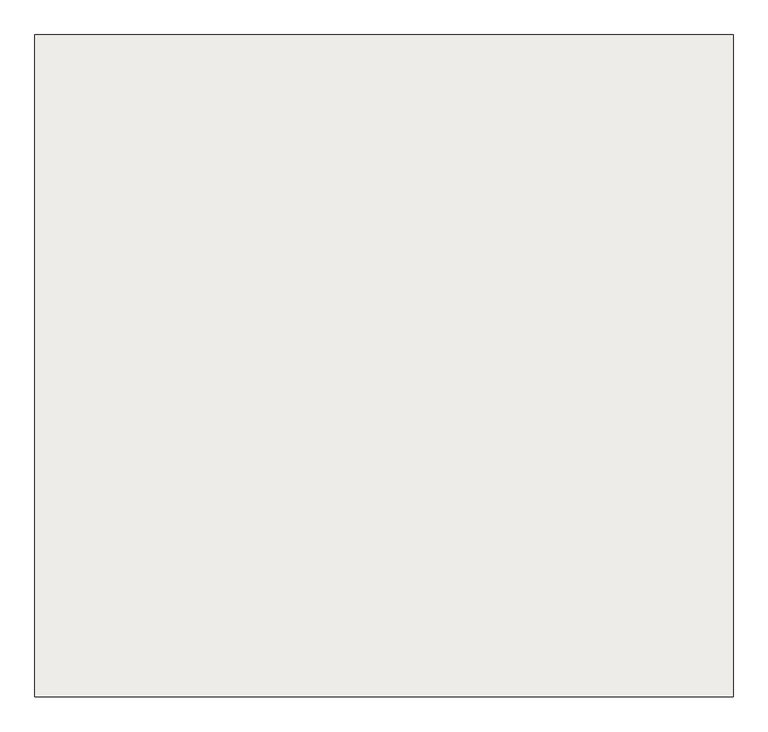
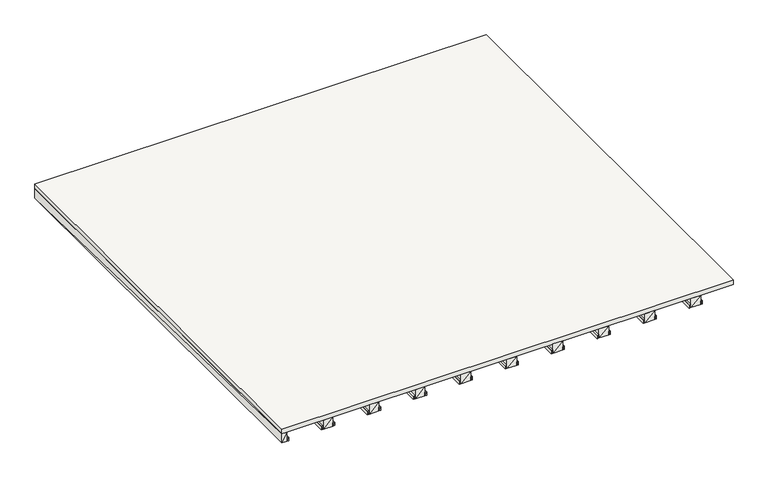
"""IFC4 building model written with IfcOpenShell, lengths in millimetres: slab geometry."""

from ifc_helpers import new_model, si_unit, frame, origin, place, context, project, spatial, polyline, outline, extrude, faceted_brep, source, transform, mapped, element, save


def slab_92ac87c9(model_context):
    return source(origin(), model_context, "Body", "SolidModel", [
        faceted_brep([(1595.8, -1767.4, -120.0), (1595.8, 1767.4, -120.0), (1610.8, 1767.4, -120.0), (1610.8, -1767.4, -120.0), (1610.8, -1767.4, -90.0), (1610.8, 1767.4, -90.0), (1595.8, 1767.4, -90.0), (1595.8, -1767.4, -90.0)], [[[0, 1, 2, 3]], [[4, 5, 6, 7]], [[4, 3, 5]], [[3, 2, 5]], [[5, 2, 6]], [[2, 1, 6]], [[6, 1, 7]], [[1, 0, 7]], [[7, 0, 4]], [[0, 3, 4]]]),
        faceted_brep([(-1144.2, -1767.4, -120.0), (-1144.2, 1767.4, -120.0), (-1064.2, 1767.4, -120.0), (-1064.2, -1767.4, -120.0), (-1064.2, -1767.4, -40.0), (-1064.2, 1767.4, -40.0), (-1144.2, 1767.4, -40.0), (-1144.2, -1767.4, -40.0)], [[[0, 1, 2, 3]], [[4, 5, 6, 7]], [[4, 3, 5]], [[3, 2, 5]], [[5, 2, 6]], [[2, 1, 6]], [[6, 1, 7]], [[1, 0, 7]], [[7, 0, 4]], [[0, 3, 4]]]),
        faceted_brep([(1135.8, -1767.4, -120.0), (1135.8, 1767.4, -120.0), (1215.8, 1767.4, -120.0), (1215.8, -1767.4, -120.0), (1215.8, -1767.4, -40.0), (1215.8, 1767.4, -40.0), (1135.8, 1767.4, -40.0), (1135.8, -1767.4, -40.0)], [[[0, 1, 2, 3]], [[4, 5, 6, 7]], [[4, 3, 5]], [[3, 2, 5]], [[5, 2, 6]], [[2, 1, 6]], [[6, 1, 7]], [[1, 0, 7]], [[7, 0, 4]], [[0, 3, 4]]]),
        faceted_brep([(360.8, -1767.4, -120.0), (360.8, 1767.4, -120.0), (375.8, 1767.4, -120.0), (375.8, -1767.4, -120.0), (375.8, -1767.4, -90.0), (375.8, 1767.4, -90.0), (360.8, 1767.4, -90.0), (360.8, -1767.4, -90.0)], [[[0, 1, 2, 3]], [[4, 5, 6, 7]], [[4, 3, 5]], [[3, 2, 5]], [[5, 2, 6]], [[2, 1, 6]], [[6, 1, 7]], [[1, 0, 7]], [[7, 0, 4]], [[0, 3, 4]]]),
        faceted_brep([(375.8, -1767.4, -120.0), (375.8, 1767.4, -120.0), (455.8, 1767.4, -120.0), (455.8, -1767.4, -120.0), (455.8, -1767.4, -40.0), (455.8, 1767.4, -40.0), (375.8, 1767.4, -40.0), (375.8, -1767.4, -40.0)], [[[0, 1, 2, 3]], [[4, 5, 6, 7]], [[4, 3, 5]], [[3, 2, 5]], [[5, 2, 6]], [[2, 1, 6]], [[6, 1, 7]], [[1, 0, 7]], [[7, 0, 4]], [[0, 3, 4]]]),
        faceted_brep([(-779.2, -1767.4, -120.0), (-779.2, 1767.4, -120.0), (-764.2, 1767.4, -120.0), (-764.2, -1767.4, -120.0), (-764.2, -1767.4, -90.0), (-764.2, 1767.4, -90.0), (-779.2, 1767.4, -90.0), (-779.2, -1767.4, -90.0)], [[[0, 1, 2, 3]], [[4, 5, 6, 7]], [[4, 3, 5]], [[3, 2, 5]], [[5, 2, 6]], [[2, 1, 6]], [[6, 1, 7]], [[1, 0, 7]], [[7, 0, 4]], [[0, 3, 4]]]),
        faceted_brep([(-1864.195, -1767.4, -120.0), (-1864.195, 1767.4, -120.0), (-1824.2, 1767.4, -120.0), (-1824.2, -1767.4, -120.0), (-1824.2, -1767.4, -40.0), (-1824.2, 1767.4, -40.0), (-1864.195, 1767.4, -40.0), (-1864.195, -1767.4, -40.0)], [[[0, 1, 2, 3]], [[4, 5, 6, 7]], [[4, 3, 5]], [[3, 2, 5]], [[5, 2, 6]], [[2, 1, 6]], [[6, 1, 7]], [[1, 0, 7]], [[7, 0, 4]], [[0, 3, 4]]]),
        faceted_brep([(835.8, -1767.4, -120.0), (835.8, 1767.4, -120.0), (850.8, 1767.4, -120.0), (850.8, -1767.4, -120.0), (850.8, -1767.4, -90.0), (850.8, 1767.4, -90.0), (835.8, 1767.4, -90.0), (835.8, -1767.4, -90.0)], [[[0, 1, 2, 3]], [[4, 5, 6, 7]], [[4, 3, 5]], [[3, 2, 5]], [[5, 2, 6]], [[2, 1, 6]], [[6, 1, 7]], [[1, 0, 7]], [[7, 0, 4]], [[0, 3, 4]]]),
        faceted_brep([(-684.2, -1767.4, -120.0), (-684.2, 1767.4, -120.0), (-669.2, 1767.4, -120.0), (-669.2, -1767.4, -120.0), (-669.2, -1767.4, -90.0), (-669.2, 1767.4, -90.0), (-684.2, 1767.4, -90.0), (-684.2, -1767.4, -90.0)], [[[0, 1, 2, 3]], [[4, 5, 6, 7]], [[4, 3, 5]], [[3, 2, 5]], [[5, 2, 6]], [[2, 1, 6]], [[6, 1, 7]], [[1, 0, 7]], [[7, 0, 4]], [[0, 3, 4]]]),
        faceted_brep([(-1444.2, -1767.4, -120.0), (-1444.2, 1767.4, -120.0), (-1429.2, 1767.4, -120.0), (-1429.2, -1767.4, -120.0), (-1429.2, -1767.4, -90.0), (-1429.2, 1767.4, -90.0), (-1444.2, 1767.4, -90.0), (-1444.2, -1767.4, -90.0)], [[[0, 1, 2, 3]], [[4, 5, 6, 7]], [[4, 3, 5]], [[3, 2, 5]], [[5, 2, 6]], [[2, 1, 6]], [[6, 1, 7]], [[1, 0, 7]], [[7, 0, 4]], [[0, 3, 4]]]),
        faceted_brep([(-1824.2, -1767.4, -120.0), (-1824.2, 1767.4, -120.0), (-1809.2, 1767.4, -120.0), (-1809.2, -1767.4, -120.0), (-1809.2, -1767.4, -90.0), (-1809.2, 1767.4, -90.0), (-1824.2, 1767.4, -90.0), (-1824.2, -1767.4, -90.0)], [[[0, 1, 2, 3]], [[4, 5, 6, 7]], [[4, 3, 5]], [[3, 2, 5]], [[5, 2, 6]], [[2, 1, 6]], [[6, 1, 7]], [[1, 0, 7]], [[7, 0, 4]], [[0, 3, 4]]]),
        extrude(outline(polyline([(-1864.2, 1767.4), (1864.2, 1767.4), (1864.2, -1767.4), (-1864.19, -1767.4), (-1864.2, 1767.4)])), frame((0.0, 0.0, -40.0), z_axis=(0.0, 0.0, 1.0), x_axis=(1.0, 0.0, 0.0)), (0.0, 0.0, 1.0), 40.0),
        faceted_brep([(-1539.2, -1767.4, -120.0), (-1539.2, 1767.4, -120.0), (-1524.2, 1767.4, -120.0), (-1524.2, -1767.4, -120.0), (-1524.2, -1767.4, -90.0), (-1524.2, 1767.4, -90.0), (-1539.2, 1767.4, -90.0), (-1539.2, -1767.4, -90.0)], [[[0, 1, 2, 3]], [[4, 5, 6, 7]], [[4, 3, 5]], [[3, 2, 5]], [[5, 2, 6]], [[2, 1, 6]], [[6, 1, 7]], [[1, 0, 7]], [[7, 0, 4]], [[0, 3, 4]]]),
        faceted_brep([(740.8, -1767.4, -120.0), (740.8, 1767.4, -120.0), (755.8, 1767.4, -120.0), (755.8, -1767.4, -120.0), (755.8, -1767.4, -90.0), (755.8, 1767.4, -90.0), (740.8, 1767.4, -90.0), (740.8, -1767.4, -90.0)], [[[0, 1, 2, 3]], [[4, 5, 6, 7]], [[4, 3, 5]], [[3, 2, 5]], [[5, 2, 6]], [[2, 1, 6]], [[6, 1, 7]], [[1, 0, 7]], [[7, 0, 4]], [[0, 3, 4]]]),
        faceted_brep([(-304.2, -1767.4, -120.0), (-304.2, 1767.4, -120.0), (-289.2, 1767.4, -120.0), (-289.2, -1767.4, -120.0), (-289.2, -1767.4, -90.0), (-289.2, 1767.4, -90.0), (-304.2, 1767.4, -90.0), (-304.2, -1767.4, -90.0)], [[[0, 1, 2, 3]], [[4, 5, 6, 7]], [[4, 3, 5]], [[3, 2, 5]], [[5, 2, 6]], [[2, 1, 6]], [[6, 1, 7]], [[1, 0, 7]], [[7, 0, 4]], [[0, 3, 4]]]),
        faceted_brep([(1215.8, -1767.4, -120.0), (1215.8, 1767.4, -120.0), (1230.8, 1767.4, -120.0), (1230.8, -1767.4, -120.0), (1230.8, -1767.4, -90.0), (1230.8, 1767.4, -90.0), (1215.8, 1767.4, -90.0), (1215.8, -1767.4, -90.0)], [[[0, 1, 2, 3]], [[4, 5, 6, 7]], [[4, 3, 5]], [[3, 2, 5]], [[5, 2, 6]], [[2, 1, 6]], [[6, 1, 7]], [[1, 0, 7]], [[7, 0, 4]], [[0, 3, 4]]]),
        faceted_brep([(755.8, -1767.4, -120.0), (755.8, 1767.4, -120.0), (835.8, 1767.4, -120.0), (835.8, -1767.4, -120.0), (835.8, -1767.4, -40.0), (835.8, 1767.4, -40.0), (755.8, 1767.4, -40.0), (755.8, -1767.4, -40.0)], [[[0, 1, 2, 3]], [[4, 5, 6, 7]], [[4, 3, 5]], [[3, 2, 5]], [[5, 2, 6]], [[2, 1, 6]], [[6, 1, 7]], [[1, 0, 7]], [[7, 0, 4]], [[0, 3, 4]]]),
        faceted_brep([(-764.2, -1767.4, -120.0), (-764.2, 1767.4, -120.0), (-684.2, 1767.4, -120.0), (-684.2, -1767.4, -120.0), (-684.2, -1767.4, -40.0), (-684.2, 1767.4, -40.0), (-764.2, 1767.4, -40.0), (-764.2, -1767.4, -40.0)], [[[0, 1, 2, 3]], [[4, 5, 6, 7]], [[4, 3, 5]], [[3, 2, 5]], [[5, 2, 6]], [[2, 1, 6]], [[6, 1, 7]], [[1, 0, 7]], [[7, 0, 4]], [[0, 3, 4]]]),
        faceted_brep([(-1064.2, -1767.4, -120.0), (-1064.2, 1767.4, -120.0), (-1049.2, 1767.4, -120.0), (-1049.2, -1767.4, -120.0), (-1049.2, -1767.4, -90.0), (-1049.2, 1767.4, -90.0), (-1064.2, 1767.4, -90.0), (-1064.2, -1767.4, -90.0)], [[[0, 1, 2, 3]], [[4, 5, 6, 7]], [[4, 3, 5]], [[3, 2, 5]], [[5, 2, 6]], [[2, 1, 6]], [[6, 1, 7]], [[1, 0, 7]], [[7, 0, 4]], [[0, 3, 4]]]),
        faceted_brep([(1120.8, -1767.4, -120.0), (1120.8, 1767.4, -120.0), (1135.8, 1767.4, -120.0), (1135.8, -1767.4, -120.0), (1135.8, -1767.4, -90.0), (1135.8, 1767.4, -90.0), (1120.8, 1767.4, -90.0), (1120.8, -1767.4, -90.0)], [[[0, 1, 2, 3]], [[4, 5, 6, 7]], [[4, 3, 5]], [[3, 2, 5]], [[5, 2, 6]], [[2, 1, 6]], [[6, 1, 7]], [[1, 0, 7]], [[7, 0, 4]], [[0, 3, 4]]]),
        faceted_brep([(1515.8, -1767.4, -120.0), (1515.8, 1767.4, -120.0), (1595.8, 1767.4, -120.0), (1595.8, -1767.4, -120.0), (1595.8, -1767.4, -40.0), (1595.8, 1767.4, -40.0), (1515.8, 1767.4, -40.0), (1515.8, -1767.4, -40.0)], [[[0, 1, 2, 3]], [[4, 5, 6, 7]], [[4, 3, 5]], [[3, 2, 5]], [[5, 2, 6]], [[2, 1, 6]], [[6, 1, 7]], [[1, 0, 7]], [[7, 0, 4]], [[0, 3, 4]]]),
        faceted_brep([(-1159.2, -1767.4, -120.0), (-1159.2, 1767.4, -120.0), (-1144.2, 1767.4, -120.0), (-1144.2, -1767.4, -120.0), (-1144.2, -1767.4, -90.0), (-1144.2, 1767.4, -90.0), (-1159.2, 1767.4, -90.0), (-1159.2, -1767.4, -90.0)], [[[0, 1, 2, 3]], [[4, 5, 6, 7]], [[4, 3, 5]], [[3, 2, 5]], [[5, 2, 6]], [[2, 1, 6]], [[6, 1, 7]], [[1, 0, 7]], [[7, 0, 4]], [[0, 3, 4]]]),
        faceted_brep([(-4.2, -1767.4, -120.0), (-4.2, 1767.4, -120.0), (75.8, 1767.4, -120.0), (75.8, -1767.4, -120.0), (75.8, -1767.4, -40.0), (75.8, 1767.4, -40.0), (-4.2, 1767.4, -40.0), (-4.2, -1767.4, -40.0)], [[[0, 1, 2, 3]], [[4, 5, 6, 7]], [[4, 3, 5]], [[3, 2, 5]], [[5, 2, 6]], [[2, 1, 6]], [[6, 1, 7]], [[1, 0, 7]], [[7, 0, 4]], [[0, 3, 4]]]),
        faceted_brep([(-1524.2, -1767.4, -120.0), (-1524.2, 1767.4, -120.0), (-1444.2, 1767.4, -120.0), (-1444.2, -1767.4, -120.0), (-1444.2, -1767.4, -40.0), (-1444.2, 1767.4, -40.0), (-1524.2, 1767.4, -40.0), (-1524.2, -1767.4, -40.0)], [[[0, 1, 2, 3]], [[4, 5, 6, 7]], [[4, 3, 5]], [[3, 2, 5]], [[5, 2, 6]], [[2, 1, 6]], [[6, 1, 7]], [[1, 0, 7]], [[7, 0, 4]], [[0, 3, 4]]]),
        faceted_brep([(-384.2, -1767.4, -120.0), (-384.2, 1767.4, -120.0), (-304.2, 1767.4, -120.0), (-304.2, -1767.4, -120.0), (-304.2, -1767.4, -40.0), (-304.2, 1767.4, -40.0), (-384.2, 1767.4, -40.0), (-384.2, -1767.4, -40.0)], [[[0, 1, 2, 3]], [[4, 5, 6, 7]], [[4, 3, 5]], [[3, 2, 5]], [[5, 2, 6]], [[2, 1, 6]], [[6, 1, 7]], [[1, 0, 7]], [[7, 0, 4]], [[0, 3, 4]]]),
        faceted_brep([(1500.8, -1767.4, -120.0), (1500.8, 1767.4, -120.0), (1515.8, 1767.4, -120.0), (1515.8, -1767.4, -120.0), (1515.8, -1767.4, -90.0), (1515.8, 1767.4, -90.0), (1500.8, 1767.4, -90.0), (1500.8, -1767.4, -90.0)], [[[0, 1, 2, 3]], [[4, 5, 6, 7]], [[4, 3, 5]], [[3, 2, 5]], [[5, 2, 6]], [[2, 1, 6]], [[6, 1, 7]], [[1, 0, 7]], [[7, 0, 4]], [[0, 3, 4]]]),
        faceted_brep([(75.8, -1767.4, -120.0), (75.8, 1767.4, -120.0), (90.8, 1767.4, -120.0), (90.8, -1767.4, -120.0), (90.8, -1767.4, -90.0), (90.8, 1767.4, -90.0), (75.8, 1767.4, -90.0), (75.8, -1767.4, -90.0)], [[[0, 1, 2, 3]], [[4, 5, 6, 7]], [[4, 3, 5]], [[3, 2, 5]], [[5, 2, 6]], [[2, 1, 6]], [[6, 1, 7]], [[1, 0, 7]], [[7, 0, 4]], [[0, 3, 4]]]),
        faceted_brep([(-399.2, -1767.4, -120.0), (-399.2, 1767.4, -120.0), (-384.2, 1767.4, -120.0), (-384.2, -1767.4, -120.0), (-384.2, -1767.4, -90.0), (-384.2, 1767.4, -90.0), (-399.2, 1767.4, -90.0), (-399.2, -1767.4, -90.0)], [[[0, 1, 2, 3]], [[4, 5, 6, 7]], [[4, 3, 5]], [[3, 2, 5]], [[5, 2, 6]], [[2, 1, 6]], [[6, 1, 7]], [[1, 0, 7]], [[7, 0, 4]], [[0, 3, 4]]]),
        faceted_brep([(455.8, -1767.4, -120.0), (455.8, 1767.4, -120.0), (470.8, 1767.4, -120.0), (470.8, -1767.4, -120.0), (470.8, -1767.4, -90.0), (470.8, 1767.4, -90.0), (455.8, 1767.4, -90.0), (455.8, -1767.4, -90.0)], [[[0, 1, 2, 3]], [[4, 5, 6, 7]], [[4, 3, 5]], [[3, 2, 5]], [[5, 2, 6]], [[2, 1, 6]], [[6, 1, 7]], [[1, 0, 7]], [[7, 0, 4]], [[0, 3, 4]]]),
        faceted_brep([(-19.2, -1767.4, -120.0), (-19.2, 1767.4, -120.0), (-4.2, 1767.4, -120.0), (-4.2, -1767.4, -120.0), (-4.2, -1767.4, -90.0), (-4.2, 1767.4, -90.0), (-19.2, 1767.4, -90.0), (-19.2, -1767.4, -90.0)], [[[0, 1, 2, 3]], [[4, 5, 6, 7]], [[4, 3, 5]], [[3, 2, 5]], [[5, 2, 6]], [[2, 1, 6]], [[6, 1, 7]], [[1, 0, 7]], [[7, 0, 4]], [[0, 3, 4]]]),
    ])


if __name__ == "__main__":
    model = new_model("IFC4")
    model_context = context("Model", 3, world=origin())
    ifc_project = project(units=[si_unit("LENGTHUNIT", "METRE", prefix="MILLI")], contexts=[model_context])
    site = spatial("IfcSite", under=ifc_project)
    building = spatial("IfcBuilding", under=site)
    placement = place(None, origin())
    slab_shape = slab_92ac87c9(model_context)
    element("IfcSlab", 1, at=placement, inside=building, context=model_context, shape_type="MappedRepresentation", body=[
        mapped(slab_shape, transform((0.0, 0.0, 0.0), x_axis=(1.0, 0.0, 0.0), y_axis=(0.0, 1.0, 0.0), z_axis=(0.0, 0.0, 1.0))),
    ])
    save(model, "model.ifc")
